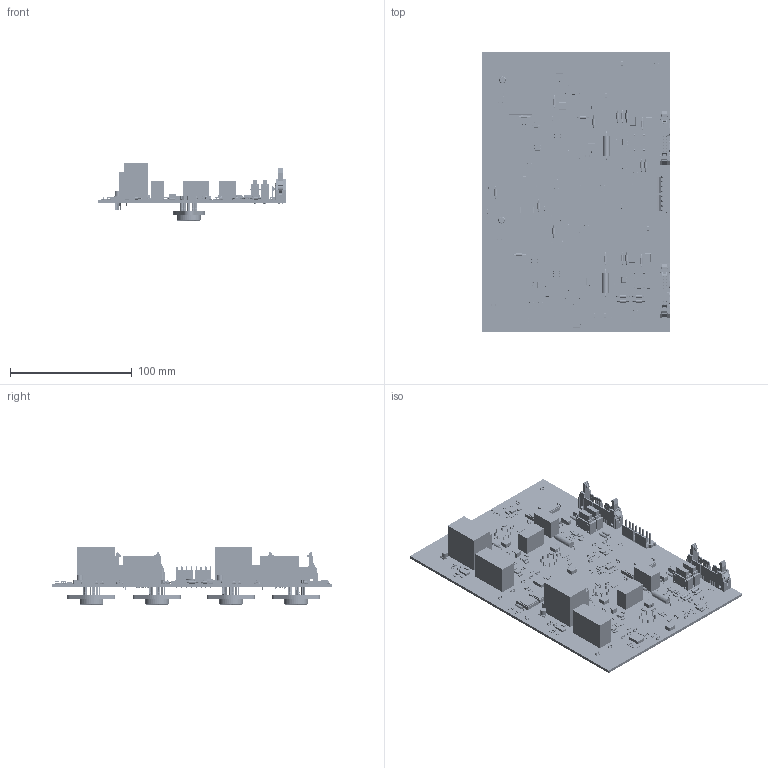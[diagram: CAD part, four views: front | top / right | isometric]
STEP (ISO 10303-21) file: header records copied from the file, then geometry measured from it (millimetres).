
FILE_DESCRIPTION(('Open CASCADE Model'),'2;1');
FILE_NAME('Open CASCADE Shape Model','2019-08-14T18:13:23',('Author'),( 'Open CASCADE'),'Open CASCADE STEP processor 6.8','Open CASCADE 6.8' ,'Unknown');
FILE_SCHEMA(('AUTOMOTIVE_DESIGN { 1 0 10303 214 1 1 1 1 }'));
Length unit declared in the file: millimetre
Products named in the file (351): PCB; Board; PR8_Coarse_Coil_Driver; mill-max-0405-0-15-01-34-XX-04-0; PR6_Fine_Coil_Driver; PR7_Fine_Coil_Driver; PR7_Coarse_Coil_Driver; PR5_Fine_Coil_Driver; PR5_Coarse_Coil_Driver; PR6_Coarse_Coil_Driver; PR8_Fine_Coil_Driver; PR3_Fine_Coil_Driver; PR1_Fine_Coil_Driver; PR1_Coarse_Coil_Driver; PR2_Fine_Coil_Driver; PR2_Coarse_Coil_Driver; PR4_Fine_Coil_Driver; PR4_Coarse_Coil_Driver; U9_Coarse_Coil_Driver; TO3-8; PR3_Coarse_Coil_Driver; K2_Coarse_Coil_Driver; 7094529152; Extruded; R47_Fine_Coil_Driver; RES_1206_(3216); R47_Coarse_Coil_Driver; K2_Fine_Coil_Driver; K4_Fine_Coil_Driver; RELAY_JQ1A; R23_Coarse_Coil_Driver; U5_Coarse_Coil_Driver; U5_Fine_Coil_Driver; D10_Coarse_Coil_Driver; CircuitWorks-DIODE0_4; L3_Fine_Coil_Driver; 7094529920; 7094529536; Cylinder; 7094529344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
Assembly tree (652 placements, depth 4):
  PCB
    Board
    PR8_Coarse_Coil_Driver
      mill-max-0405-0-15-01-34-XX-04-0
    PR6_Fine_Coil_Driver
      mill-max-0405-0-15-01-34-XX-04-0
    PR7_Fine_Coil_Driver
      mill-max-0405-0-15-01-34-XX-04-0
    PR7_Coarse_Coil_Driver
      mill-max-0405-0-15-01-34-XX-04-0
    PR5_Fine_Coil_Driver
      mill-max-0405-0-15-01-34-XX-04-0
    PR5_Coarse_Coil_Driver
      mill-max-0405-0-15-01-34-XX-04-0
    PR6_Coarse_Coil_Driver
      mill-max-0405-0-15-01-34-XX-04-0
    PR8_Fine_Coil_Driver
      mill-max-0405-0-15-01-34-XX-04-0
    PR3_Fine_Coil_Driver
      mill-max-0405-0-15-01-34-XX-04-0
    PR1_Fine_Coil_Driver
      mill-max-0405-0-15-01-34-XX-04-0
    PR1_Coarse_Coil_Driver
      mill-max-0405-0-15-01-34-XX-04-0
    PR2_Fine_Coil_Driver
      mill-max-0405-0-15-01-34-XX-04-0
    PR2_Coarse_Coil_Driver
      mill-max-0405-0-15-01-34-XX-04-0
    PR4_Fine_Coil_Driver
      mill-max-0405-0-15-01-34-XX-04-0
    PR4_Coarse_Coil_Driver
      mill-max-0405-0-15-01-34-XX-04-0
    U9_Coarse_Coil_Driver
      TO3-8
    PR3_Coarse_Coil_Driver
      mill-max-0405-0-15-01-34-XX-04-0
    K2_Coarse_Coil_Driver
      7094529152
        Extruded
    R47_Fine_Coil_Driver
      RES_1206_(3216)
    R47_Coarse_Coil_Driver
      RES_1206_(3216)
    K2_Fine_Coil_Driver
      7094529152
        Extruded
    K4_Fine_Coil_Driver
      RELAY_JQ1A
    R23_Coarse_Coil_Driver
      RES_1206_(3216)
    U5_Coarse_Coil_Driver
      TO3-8
    U5_Fine_Coil_Driver
      TO3-8
    D10_Coarse_Coil_Driver
      CircuitWorks-DIODE0_4
    L3_Fine_Coil_Driver
      7094529920
        Extruded
      7094529536
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Bounding box: 155.19 x 231.14 x 46.99 mm (x, y, z)
Volume: 159213.3 mm3; surface area: 143739.3 mm2
Topology: 576 solids, 2150 shells, 36742 faces, 95218 edges, 60982 vertices
Faces by surface type: plane 17350, bspline 12578, cylinder 6374, torus 160, cone 152, sphere 128
Full cylindrical faces by diameter (mm): 0.5 x4, 0.787 x4, 5.512 x2, 12 x6
Entity records: 95172 total; most frequent: CARTESIAN_POINT 17890, DIRECTION 12632, ORIENTED_EDGE 12237, EDGE_CURVE 6521, LINE 5180, VECTOR 5180, VERTEX_POINT 4518, AXIS2_PLACEMENT_3D 3726
